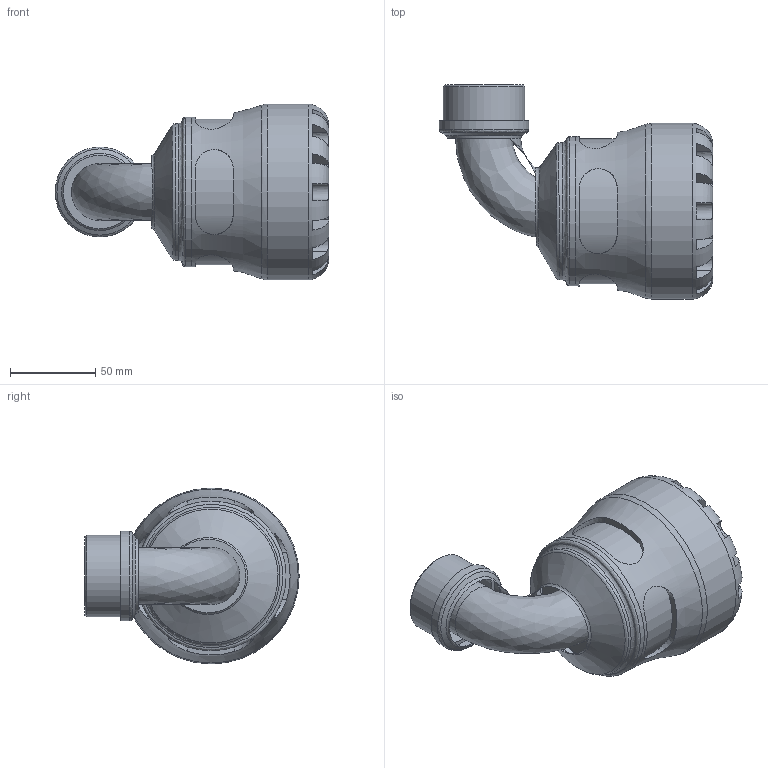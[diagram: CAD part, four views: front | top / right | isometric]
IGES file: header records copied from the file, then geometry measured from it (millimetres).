
Global section: file name: 107700063015_197700063015.ipt; native system: Autodesk Inventor 2015; preprocessor: unknown; author: KIM; date: 20170122.115516; units: millimetre
Bounding box: 160.29 x 125.5 x 103 mm (x, y, z)
Volume: 441529.6 mm3; surface area: 84118.6 mm2
Topology: 1 solids, 1 shells, 111 faces, 288 edges, 182 vertices
Faces by surface type: plane 60, revolution 27, cylinder 17, bspline 5, cone 2
Full cylindrical faces by diameter (mm): 47.803 x1, 52.583 x1, 80.34 x1, 87.55 x1, 103 x1
